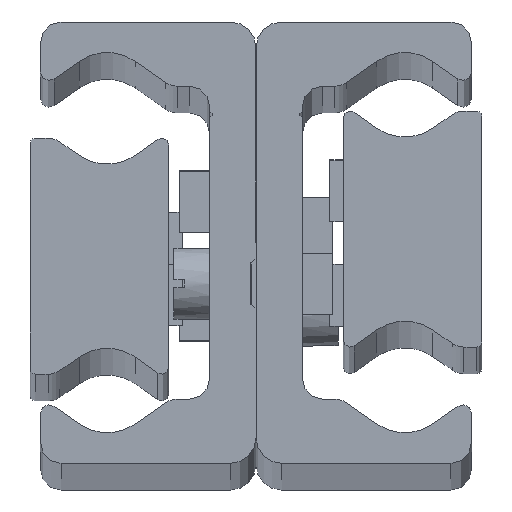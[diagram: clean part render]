
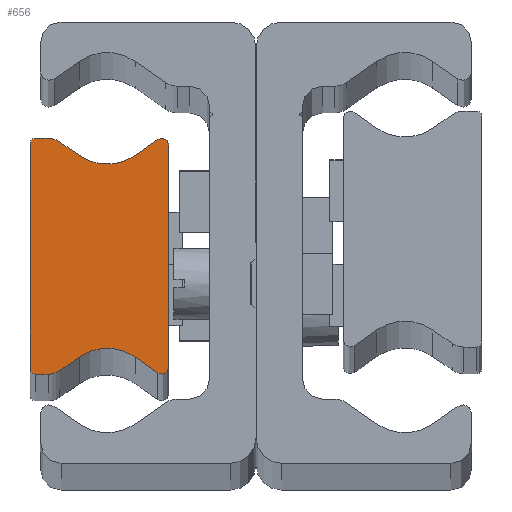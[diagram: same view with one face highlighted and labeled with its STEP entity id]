
A CAD part, top view. The second image highlights one B-rep face of the part: STEP entity #656.
In plain terms, the highlighted planar face has unit normal (0, 0, 1) as drawn and (0, 0, -1) by its records, which use the part's own axes.
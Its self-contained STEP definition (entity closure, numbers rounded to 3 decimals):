
#656 = ADVANCED_FACE( '', ( #1484 ), #1485, .F. );
#1484 = FACE_OUTER_BOUND( '', #2354, .T. );
#1485 = PLANE( '', #2355 );
#2354 = EDGE_LOOP( '', ( #3899, #3900, #3901, #3902, #3903, #3904, #3905, #3906, #3907, #3908, #3909, #3910, #3911, #3912, #3913, #3914 ) );
#2355 = AXIS2_PLACEMENT_3D( '', #3915, #3916, #3917 );
#3899 = ORIENTED_EDGE( '', *, *, #4249, .F. );
#3900 = ORIENTED_EDGE( '', *, *, #4780, .F. );
#3901 = ORIENTED_EDGE( '', *, *, #4659, .F. );
#3902 = ORIENTED_EDGE( '', *, *, #4365, .F. );
#3903 = ORIENTED_EDGE( '', *, *, #4788, .F. );
#3904 = ORIENTED_EDGE( '', *, *, #4504, .T. );
#3905 = ORIENTED_EDGE( '', *, *, #4684, .F. );
#3906 = ORIENTED_EDGE( '', *, *, #4547, .F. );
#3907 = ORIENTED_EDGE( '', *, *, #4440, .F. );
#3908 = ORIENTED_EDGE( '', *, *, #4782, .F. );
#3909 = ORIENTED_EDGE( '', *, *, #4710, .F. );
#3910 = ORIENTED_EDGE( '', *, *, #4773, .T. );
#3911 = ORIENTED_EDGE( '', *, *, #4323, .F. );
#3912 = ORIENTED_EDGE( '', *, *, #4752, .F. );
#3913 = ORIENTED_EDGE( '', *, *, #4388, .F. );
#3914 = ORIENTED_EDGE( '', *, *, #4798, .F. );
#3915 = CARTESIAN_POINT( '', ( 0.5, -11., -1490. ) );
#3916 = DIRECTION( '', ( 0., 0., 1. ) );
#3917 = DIRECTION( '', ( 1., 0., 0. ) );
#4249 = EDGE_CURVE( '', #4906, #4908, #4909, .T. );
#4323 = EDGE_CURVE( '', #5035, #5037, #5038, .T. );
#4365 = EDGE_CURVE( '', #5108, #5110, #5111, .T. );
#4388 = EDGE_CURVE( '', #5143, #5145, #5146, .T. );
#4440 = EDGE_CURVE( '', #5236, #5238, #5239, .T. );
#4504 = EDGE_CURVE( '', #5342, #5340, #5343, .T. );
#4547 = EDGE_CURVE( '', #5238, #5408, #5409, .T. );
#4659 = EDGE_CURVE( '', #5110, #5572, #5573, .T. );
#4684 = EDGE_CURVE( '', #5408, #5340, #5606, .T. );
#4710 = EDGE_CURVE( '', #5640, #5642, #5643, .T. );
#4752 = EDGE_CURVE( '', #5145, #5035, #5700, .T. );
#4773 = EDGE_CURVE( '', #5640, #5037, #5727, .T. );
#4780 = EDGE_CURVE( '', #5572, #4906, #5735, .T. );
#4782 = EDGE_CURVE( '', #5642, #5236, #5737, .T. );
#4788 = EDGE_CURVE( '', #5342, #5108, #5743, .T. );
#4798 = EDGE_CURVE( '', #4908, #5143, #5753, .T. );
#4906 = VERTEX_POINT( '', #5871 );
#4908 = VERTEX_POINT( '', #5874 );
#4909 = LINE( '', #5875, #5876 );
#5035 = VERTEX_POINT( '', #6032 );
#5037 = VERTEX_POINT( '', #6035 );
#5038 = LINE( '', #6036, #6037 );
#5108 = VERTEX_POINT( '', #6121 );
#5110 = VERTEX_POINT( '', #6124 );
#5111 = CIRCLE( '', #6125, 2. );
#5143 = VERTEX_POINT( '', #6165 );
#5145 = VERTEX_POINT( '', #6168 );
#5146 = LINE( '', #6169, #6170 );
#5236 = VERTEX_POINT( '', #6279 );
#5238 = VERTEX_POINT( '', #6282 );
#5239 = LINE( '', #6283, #6284 );
#5340 = VERTEX_POINT( '', #6411 );
#5342 = VERTEX_POINT( '', #6414 );
#5343 = CIRCLE( '', #6415, 4.763 );
#5408 = VERTEX_POINT( '', #6490 );
#5409 = CIRCLE( '', #6491, 0.668 );
#5572 = VERTEX_POINT( '', #6688 );
#5573 = LINE( '', #6689, #6690 );
#5606 = LINE( '', #6729, #6730 );
#5640 = VERTEX_POINT( '', #6766 );
#5642 = VERTEX_POINT( '', #6769 );
#5643 = LINE( '', #6770, #6771 );
#5700 = CIRCLE( '', #6843, 2. );
#5727 = CIRCLE( '', #6877, 4.763 );
#5735 = CIRCLE( '', #6886, 0.5 );
#5737 = CIRCLE( '', #6888, 0.668 );
#5743 = LINE( '', #6894, #6895 );
#5753 = CIRCLE( '', #6907, 0.5 );
#5871 = CARTESIAN_POINT( '', ( 0., 11., -1490. ) );
#5874 = CARTESIAN_POINT( '', ( 0., -11., -1490. ) );
#5875 = CARTESIAN_POINT( '', ( 0., 11., -1490. ) );
#5876 = VECTOR( '', #7042, 1000. );
#6032 = CARTESIAN_POINT( '', ( 2.895, -11.138, -1490. ) );
#6035 = CARTESIAN_POINT( '', ( 4.768, -9.827, -1490. ) );
#6036 = CARTESIAN_POINT( '', ( 2.895, -11.138, -1490. ) );
#6037 = VECTOR( '', #7143, 1000. );
#6121 = CARTESIAN_POINT( '', ( 2.895, 11.138, -1490. ) );
#6124 = CARTESIAN_POINT( '', ( 1.748, 11.5, -1490. ) );
#6125 = AXIS2_PLACEMENT_3D( '', #7207, #7208, #7209 );
#6165 = CARTESIAN_POINT( '', ( 0.5, -11.5, -1490. ) );
#6168 = CARTESIAN_POINT( '', ( 1.748, -11.5, -1490. ) );
#6169 = CARTESIAN_POINT( '', ( 0.5, -11.5, -1490. ) );
#6170 = VECTOR( '', #7237, 1000. );
#6279 = CARTESIAN_POINT( '', ( 13.5, -10.832, -1490. ) );
#6282 = CARTESIAN_POINT( '', ( 13.5, 10.832, -1490. ) );
#6283 = CARTESIAN_POINT( '', ( 13.5, -10.832, -1490. ) );
#6284 = VECTOR( '', #7339, 1000. );
#6411 = CARTESIAN_POINT( '', ( 10.232, 9.827, -1490. ) );
#6414 = CARTESIAN_POINT( '', ( 4.768, 9.827, -1490. ) );
#6415 = AXIS2_PLACEMENT_3D( '', #7424, #7425, #7426 );
#6490 = CARTESIAN_POINT( '', ( 12.449, 11.379, -1490. ) );
#6491 = AXIS2_PLACEMENT_3D( '', #7488, #7489, #7490 );
#6688 = CARTESIAN_POINT( '', ( 0.5, 11.5, -1490. ) );
#6689 = CARTESIAN_POINT( '', ( 1.748, 11.5, -1490. ) );
#6690 = VECTOR( '', #7642, 1000. );
#6729 = CARTESIAN_POINT( '', ( 12.449, 11.379, -1490. ) );
#6730 = VECTOR( '', #7679, 1000. );
#6766 = CARTESIAN_POINT( '', ( 10.232, -9.827, -1490. ) );
#6769 = CARTESIAN_POINT( '', ( 12.449, -11.379, -1490. ) );
#6770 = CARTESIAN_POINT( '', ( 10.232, -9.827, -1490. ) );
#6771 = VECTOR( '', #7710, 1000. );
#6843 = AXIS2_PLACEMENT_3D( '', #7756, #7757, #7758 );
#6877 = AXIS2_PLACEMENT_3D( '', #7784, #7785, #7786 );
#6886 = AXIS2_PLACEMENT_3D( '', #7791, #7792, #7793 );
#6888 = AXIS2_PLACEMENT_3D( '', #7794, #7795, #7796 );
#6894 = CARTESIAN_POINT( '', ( 4.768, 9.827, -1490. ) );
#6895 = VECTOR( '', #7797, 1000. );
#6907 = AXIS2_PLACEMENT_3D( '', #7800, #7801, #7802 );
#7042 = DIRECTION( '', ( 0., -1., 0. ) );
#7143 = DIRECTION( '', ( 0.819, 0.574, 0. ) );
#7207 = CARTESIAN_POINT( '', ( 1.748, 9.5, -1490. ) );
#7208 = DIRECTION( '', ( 0., 0., 1. ) );
#7209 = DIRECTION( '', ( 1., 0., 0. ) );
#7237 = DIRECTION( '', ( 1., 0., 0. ) );
#7339 = DIRECTION( '', ( 0., 1., 0. ) );
#7424 = CARTESIAN_POINT( '', ( 7.5, 13.729, -1490. ) );
#7425 = DIRECTION( '', ( 0., 0., 1. ) );
#7426 = DIRECTION( '', ( 1., 0., 0. ) );
#7488 = CARTESIAN_POINT( '', ( 12.832, 10.832, -1490. ) );
#7489 = DIRECTION( '', ( 0., 0., 1. ) );
#7490 = DIRECTION( '', ( 1., 0., 0. ) );
#7642 = DIRECTION( '', ( -1., 0., 0. ) );
#7679 = DIRECTION( '', ( -0.819, -0.574, 0. ) );
#7710 = DIRECTION( '', ( 0.819, -0.574, 0. ) );
#7756 = CARTESIAN_POINT( '', ( 1.748, -9.5, -1490. ) );
#7757 = DIRECTION( '', ( 0., 0., 1. ) );
#7758 = DIRECTION( '', ( 1., 0., 0. ) );
#7784 = CARTESIAN_POINT( '', ( 7.5, -13.729, -1490. ) );
#7785 = DIRECTION( '', ( 0., 0., 1. ) );
#7786 = DIRECTION( '', ( 1., 0., 0. ) );
#7791 = CARTESIAN_POINT( '', ( 0.5, 11., -1490. ) );
#7792 = DIRECTION( '', ( 0., 0., 1. ) );
#7793 = DIRECTION( '', ( 1., 0., 0. ) );
#7794 = CARTESIAN_POINT( '', ( 12.832, -10.832, -1490. ) );
#7795 = DIRECTION( '', ( 0., 0., 1. ) );
#7796 = DIRECTION( '', ( 1., 0., 0. ) );
#7797 = DIRECTION( '', ( -0.819, 0.574, 0. ) );
#7800 = CARTESIAN_POINT( '', ( 0.5, -11., -1490. ) );
#7801 = DIRECTION( '', ( 0., 0., 1. ) );
#7802 = DIRECTION( '', ( 1., 0., 0. ) );
